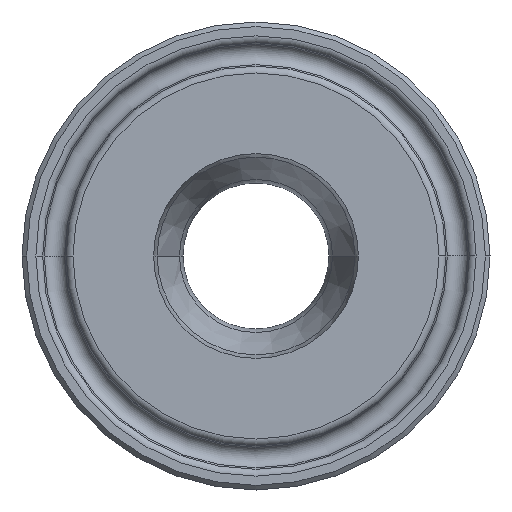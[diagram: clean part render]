
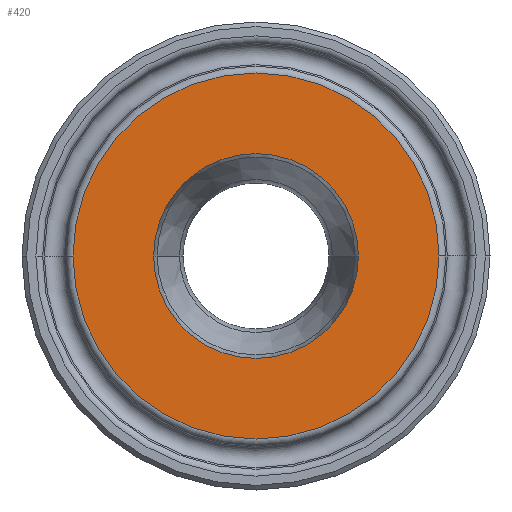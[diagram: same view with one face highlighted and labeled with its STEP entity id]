
A CAD part, left-side view. The second image highlights one B-rep face of the part: STEP entity #420.
In plain terms, the highlighted planar face has unit normal (-1, 0, 0).
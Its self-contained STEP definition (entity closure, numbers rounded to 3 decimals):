
#19 = VERTEX_POINT ( 'NONE', #551 ) ;
#20 = CARTESIAN_POINT ( 'NONE',  ( -66.675, 19.747, 0. ) ) ;
#26 = DIRECTION ( 'NONE',  ( 0., 1., 0. ) ) ;
#33 = PLANE ( 'NONE',  #737 ) ;
#63 = EDGE_LOOP ( 'NONE', ( #518, #743 ) ) ;
#105 = CARTESIAN_POINT ( 'NONE',  ( -66.675, -19.747, 0. ) ) ;
#110 = VERTEX_POINT ( 'NONE', #875 ) ;
#115 = DIRECTION ( 'NONE',  ( 0., -1., 0. ) ) ;
#137 = DIRECTION ( 'NONE',  ( 1., 0., 0. ) ) ;
#149 = AXIS2_PLACEMENT_3D ( 'NONE', #1049, #1054, #1058 ) ;
#205 = VERTEX_POINT ( 'NONE', #810 ) ;
#208 = DIRECTION ( 'NONE',  ( 1., 0., 0. ) ) ;
#222 = CARTESIAN_POINT ( 'NONE',  ( -66.675, 0., 0. ) ) ;
#230 = EDGE_LOOP ( 'NONE', ( #746, #876 ) ) ;
#269 = AXIS2_PLACEMENT_3D ( 'NONE', #885, #137, #912 ) ;
#286 = DIRECTION ( 'NONE',  ( 1., 0., 0. ) ) ;
#290 = DIRECTION ( 'NONE',  ( 0., 1., 0. ) ) ;
#292 = CARTESIAN_POINT ( 'NONE',  ( -66.675, 0., 0. ) ) ;
#300 = CIRCLE ( 'NONE', #149, 19.747 ) ;
#353 = CIRCLE ( 'NONE', #922, 19.747 ) ;
#392 = FACE_OUTER_BOUND ( 'NONE', #63, .T. ) ;
#398 = DIRECTION ( 'NONE',  ( -1., 0., 0. ) ) ;
#420 = ADVANCED_FACE ( 'NONE', ( #1011, #392 ), #33, .T. ) ;
#515 = VERTEX_POINT ( 'NONE', #105 ) ;
#518 = ORIENTED_EDGE ( 'NONE', *, *, #893, .F. ) ;
#536 = EDGE_CURVE ( 'NONE', #205, #19, #682, .T. ) ;
#551 = CARTESIAN_POINT ( 'NONE',  ( -66.675, -11.05, 0. ) ) ;
#621 = CIRCLE ( 'NONE', #269, 11.05 ) ;
#682 = CIRCLE ( 'NONE', #755, 11.05 ) ;
#693 = EDGE_CURVE ( 'NONE', #19, #205, #621, .T. ) ;
#737 = AXIS2_PLACEMENT_3D ( 'NONE', #20, #398, #115 ) ;
#743 = ORIENTED_EDGE ( 'NONE', *, *, #990, .F. ) ;
#746 = ORIENTED_EDGE ( 'NONE', *, *, #536, .T. ) ;
#755 = AXIS2_PLACEMENT_3D ( 'NONE', #292, #208, #26 ) ;
#810 = CARTESIAN_POINT ( 'NONE',  ( -66.675, 11.05, 0. ) ) ;
#875 = CARTESIAN_POINT ( 'NONE',  ( -66.675, 19.747, 0. ) ) ;
#876 = ORIENTED_EDGE ( 'NONE', *, *, #693, .T. ) ;
#885 = CARTESIAN_POINT ( 'NONE',  ( -66.675, 0., 0. ) ) ;
#893 = EDGE_CURVE ( 'NONE', #110, #515, #353, .T. ) ;
#912 = DIRECTION ( 'NONE',  ( 0., 1., 0. ) ) ;
#922 = AXIS2_PLACEMENT_3D ( 'NONE', #222, #286, #290 ) ;
#990 = EDGE_CURVE ( 'NONE', #515, #110, #300, .T. ) ;
#1011 = FACE_BOUND ( 'NONE', #230, .T. ) ;
#1049 = CARTESIAN_POINT ( 'NONE',  ( -66.675, 0., 0. ) ) ;
#1054 = DIRECTION ( 'NONE',  ( 1., 0., 0. ) ) ;
#1058 = DIRECTION ( 'NONE',  ( 0., 1., 0. ) ) ;
